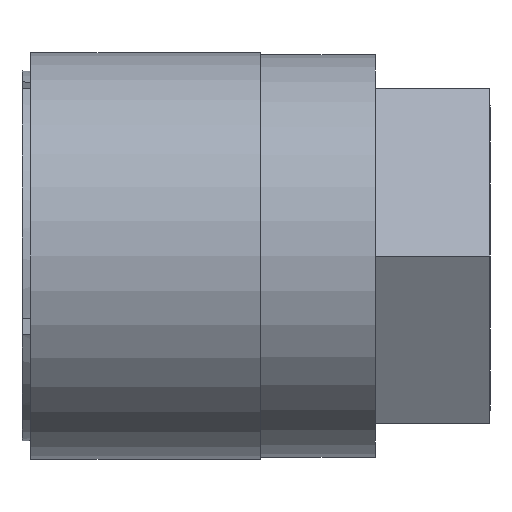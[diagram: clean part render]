
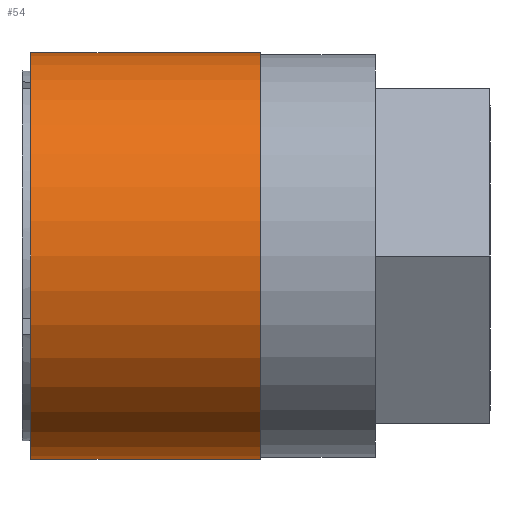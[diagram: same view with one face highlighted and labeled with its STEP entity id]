
A CAD part, front view. The second image highlights one B-rep face of the part: STEP entity #54.
In plain terms, the highlighted cylindrical face has radius 11.5 mm (diameter 23 mm), a partial arc.
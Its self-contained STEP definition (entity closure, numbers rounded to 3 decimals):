
#54 = ADVANCED_FACE ( 'NONE', ( #1315 ), #1321, .T. ) ;
#89 = CARTESIAN_POINT ( 'NONE',  ( 13.5, 0., 11.5 ) ) ;
#112 = CARTESIAN_POINT ( 'NONE',  ( 0.5, 0., 11.5 ) ) ;
#200 = EDGE_CURVE ( 'NONE', #704, #667, #1358, .T. ) ;
#331 = ORIENTED_EDGE ( 'NONE', *, *, #445, .F. ) ;
#332 = ORIENTED_EDGE ( 'NONE', *, *, #200, .T. ) ;
#333 = ORIENTED_EDGE ( 'NONE', *, *, #440, .T. ) ;
#361 = ORIENTED_EDGE ( 'NONE', *, *, #446, .F. ) ;
#440 = EDGE_CURVE ( 'NONE', #638, #704, #1505, .T. ) ;
#445 = EDGE_CURVE ( 'NONE', #636, #667, #1515, .T. ) ;
#446 = EDGE_CURVE ( 'NONE', #638, #636, #1506, .T. ) ;
#476 = AXIS2_PLACEMENT_3D ( 'NONE', #940, #924, #1690 ) ;
#478 = AXIS2_PLACEMENT_3D ( 'NONE', #1691, #1683, #1682 ) ;
#507 = AXIS2_PLACEMENT_3D ( 'NONE', #730, #726, #725 ) ;
#636 = VERTEX_POINT ( 'NONE', #1629 ) ;
#638 = VERTEX_POINT ( 'NONE', #1617 ) ;
#667 = VERTEX_POINT ( 'NONE', #112 ) ;
#704 = VERTEX_POINT ( 'NONE', #89 ) ;
#725 = DIRECTION ( 'NONE',  ( 0., 0., 1. ) ) ;
#726 = DIRECTION ( 'NONE',  ( -1., 0., 0. ) ) ;
#730 = CARTESIAN_POINT ( 'NONE',  ( 0., 0., 0. ) ) ;
#757 = CARTESIAN_POINT ( 'NONE',  ( 0., 0., 11.5 ) ) ;
#795 = DIRECTION ( 'NONE',  ( -1., 0., 0. ) ) ;
#924 = DIRECTION ( 'NONE',  ( -1., 0., 0. ) ) ;
#940 = CARTESIAN_POINT ( 'NONE',  ( 13.5, 0., 0. ) ) ;
#1205 = EDGE_LOOP ( 'NONE', ( #361, #333, #332, #331 ) ) ;
#1315 = FACE_OUTER_BOUND ( 'NONE', #1205, .T. ) ;
#1321 = CYLINDRICAL_SURFACE ( 'NONE', #507, 11.5 ) ;
#1358 = LINE ( 'NONE', #757, #1360 ) ;
#1360 = VECTOR ( 'NONE', #795, 1000. ) ;
#1505 = CIRCLE ( 'NONE', #476, 11.5 ) ;
#1506 = LINE ( 'NONE', #1681, #1512 ) ;
#1512 = VECTOR ( 'NONE', #1680, 1000. ) ;
#1515 = CIRCLE ( 'NONE', #478, 11.5 ) ;
#1617 = CARTESIAN_POINT ( 'NONE',  ( 13.5, 0., -11.5 ) ) ;
#1629 = CARTESIAN_POINT ( 'NONE',  ( 0.5, 0., -11.5 ) ) ;
#1680 = DIRECTION ( 'NONE',  ( -1., 0., 0. ) ) ;
#1681 = CARTESIAN_POINT ( 'NONE',  ( 0., 0., -11.5 ) ) ;
#1682 = DIRECTION ( 'NONE',  ( 0., 0., 1. ) ) ;
#1683 = DIRECTION ( 'NONE',  ( -1., 0., 0. ) ) ;
#1690 = DIRECTION ( 'NONE',  ( 0., 0., 1. ) ) ;
#1691 = CARTESIAN_POINT ( 'NONE',  ( 0.5, 0., 0. ) ) ;
